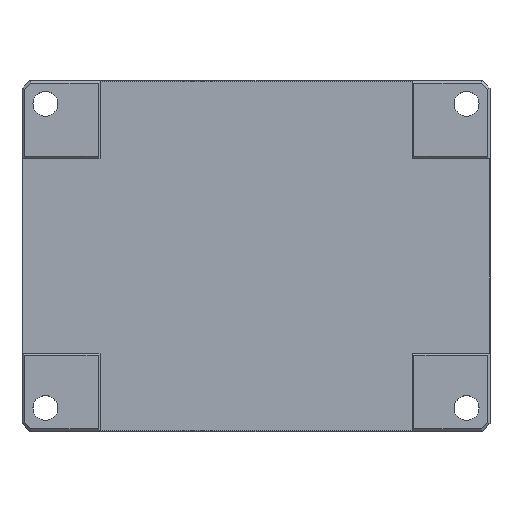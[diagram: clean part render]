
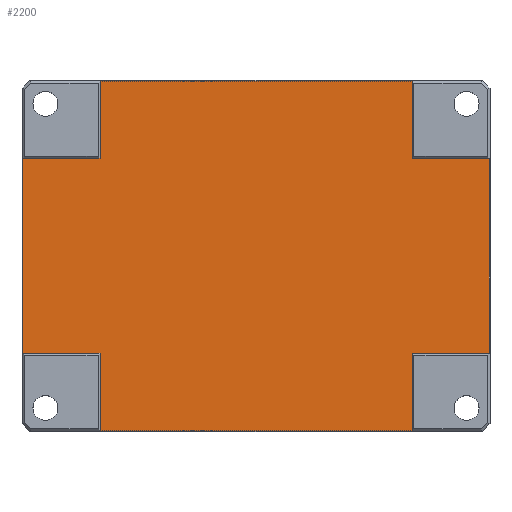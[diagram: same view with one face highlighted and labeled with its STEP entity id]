
A CAD part, top view. The second image highlights one B-rep face of the part: STEP entity #2200.
In plain terms, the highlighted planar face has unit normal (0, 0, 1).
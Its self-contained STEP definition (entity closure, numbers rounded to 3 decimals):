
#112=PLANE('',#2416);
#206=FACE_OUTER_BOUND('',#345,.T.);
#345=EDGE_LOOP('',(#1802,#1803,#1804,#1805,#1806,#1807,#1808,#1809,#1810,
#1811,#1812,#1813));
#551=LINE('',#3585,#763);
#558=LINE('',#3599,#770);
#563=LINE('',#3609,#775);
#564=LINE('',#3611,#776);
#565=LINE('',#3613,#777);
#566=LINE('',#3615,#778);
#567=LINE('',#3617,#779);
#568=LINE('',#3619,#780);
#569=LINE('',#3621,#781);
#570=LINE('',#3622,#782);
#571=LINE('',#3624,#783);
#572=LINE('',#3625,#784);
#763=VECTOR('',#2894,10.);
#770=VECTOR('',#2903,10.);
#775=VECTOR('',#2912,10.);
#776=VECTOR('',#2913,10.);
#777=VECTOR('',#2914,10.);
#778=VECTOR('',#2915,10.);
#779=VECTOR('',#2916,10.);
#780=VECTOR('',#2917,10.);
#781=VECTOR('',#2918,10.);
#782=VECTOR('',#2919,10.);
#783=VECTOR('',#2920,10.);
#784=VECTOR('',#2921,10.);
#1079=VERTEX_POINT('',#3582);
#1080=VERTEX_POINT('',#3584);
#1085=VERTEX_POINT('',#3596);
#1086=VERTEX_POINT('',#3598);
#1089=VERTEX_POINT('',#3608);
#1090=VERTEX_POINT('',#3610);
#1091=VERTEX_POINT('',#3612);
#1092=VERTEX_POINT('',#3614);
#1093=VERTEX_POINT('',#3616);
#1094=VERTEX_POINT('',#3618);
#1095=VERTEX_POINT('',#3620);
#1096=VERTEX_POINT('',#3623);
#1353=EDGE_CURVE('',#1079,#1080,#551,.T.);
#1360=EDGE_CURVE('',#1085,#1086,#558,.T.);
#1365=EDGE_CURVE('',#1085,#1089,#563,.T.);
#1366=EDGE_CURVE('',#1089,#1090,#564,.T.);
#1367=EDGE_CURVE('',#1091,#1090,#565,.T.);
#1368=EDGE_CURVE('',#1091,#1092,#566,.T.);
#1369=EDGE_CURVE('',#1092,#1093,#567,.T.);
#1370=EDGE_CURVE('',#1094,#1093,#568,.T.);
#1371=EDGE_CURVE('',#1094,#1095,#569,.T.);
#1372=EDGE_CURVE('',#1095,#1080,#570,.T.);
#1373=EDGE_CURVE('',#1079,#1096,#571,.T.);
#1374=EDGE_CURVE('',#1096,#1086,#572,.T.);
#1802=ORIENTED_EDGE('',*,*,#1360,.F.);
#1803=ORIENTED_EDGE('',*,*,#1365,.T.);
#1804=ORIENTED_EDGE('',*,*,#1366,.T.);
#1805=ORIENTED_EDGE('',*,*,#1367,.F.);
#1806=ORIENTED_EDGE('',*,*,#1368,.T.);
#1807=ORIENTED_EDGE('',*,*,#1369,.T.);
#1808=ORIENTED_EDGE('',*,*,#1370,.F.);
#1809=ORIENTED_EDGE('',*,*,#1371,.T.);
#1810=ORIENTED_EDGE('',*,*,#1372,.T.);
#1811=ORIENTED_EDGE('',*,*,#1353,.F.);
#1812=ORIENTED_EDGE('',*,*,#1373,.T.);
#1813=ORIENTED_EDGE('',*,*,#1374,.T.);
#2200=ADVANCED_FACE('',(#206),#112,.T.);
#2416=AXIS2_PLACEMENT_3D('',#3607,#2910,#2911);
#2894=DIRECTION('',(-1.,0.,0.));
#2903=DIRECTION('',(0.,-1.,0.));
#2910=DIRECTION('center_axis',(0.,0.,
1.));
#2911=DIRECTION('ref_axis',(1.,0.,0.));
#2912=DIRECTION('',(-1.,0.,0.));
#2913=DIRECTION('',(0.,1.,0.));
#2914=DIRECTION('',(1.,0.,0.));
#2915=DIRECTION('',(0.,-1.,0.));
#2916=DIRECTION('',(-1.,0.,0.));
#2917=DIRECTION('',(0.,1.,0.));
#2918=DIRECTION('',(1.,0.,0.));
#2919=DIRECTION('',(0.,-1.,0.));
#2920=DIRECTION('',(0.,1.,0.));
#2921=DIRECTION('',(1.,0.,0.));
#3582=CARTESIAN_POINT('',(40.,-44.8,32.5));
#3584=CARTESIAN_POINT('',(-40.,-44.8,32.5));
#3585=CARTESIAN_POINT('',(15.,-44.8,32.5));
#3596=CARTESIAN_POINT('',(59.8,25.,32.5));
#3598=CARTESIAN_POINT('',(59.8,-25.,32.5));
#3599=CARTESIAN_POINT('',(59.8,11.25,32.5));
#3607=CARTESIAN_POINT('Origin',(0.,0.,
32.5));
#3608=CARTESIAN_POINT('',(40.,25.,32.5));
#3609=CARTESIAN_POINT('',(60.,25.,32.5));
#3610=CARTESIAN_POINT('',(40.,44.8,32.5));
#3611=CARTESIAN_POINT('',(40.,25.,32.5));
#3612=CARTESIAN_POINT('',(-40.,44.8,32.5));
#3613=CARTESIAN_POINT('',(-15.,44.8,32.5));
#3614=CARTESIAN_POINT('',(-40.,25.,32.5));
#3615=CARTESIAN_POINT('',(-40.,45.,32.5));
#3616=CARTESIAN_POINT('',(-59.8,25.,32.5));
#3617=CARTESIAN_POINT('',(-40.,25.,32.5));
#3618=CARTESIAN_POINT('',(-59.8,-25.,32.5));
#3619=CARTESIAN_POINT('',(-59.8,-11.25,32.5));
#3620=CARTESIAN_POINT('',(-40.,-25.,32.5));
#3621=CARTESIAN_POINT('',(-60.,-25.,32.5));
#3622=CARTESIAN_POINT('',(-40.,-25.,32.5));
#3623=CARTESIAN_POINT('',(40.,-25.,32.5));
#3624=CARTESIAN_POINT('',(40.,-45.,32.5));
#3625=CARTESIAN_POINT('',(40.,-25.,32.5));
